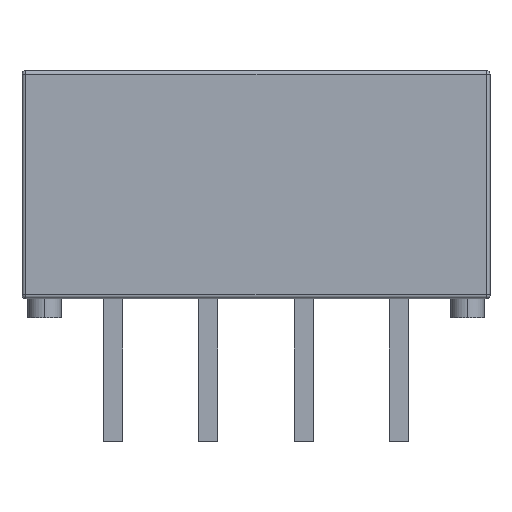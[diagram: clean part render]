
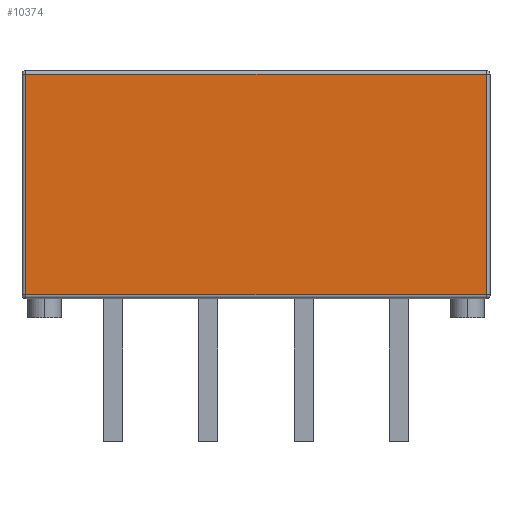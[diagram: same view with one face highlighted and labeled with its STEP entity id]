
A CAD part, top view. The second image highlights one B-rep face of the part: STEP entity #10374.
In plain terms, the highlighted planar face has unit normal (0, 0, 1).
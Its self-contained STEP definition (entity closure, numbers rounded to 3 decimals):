
#4173 = CARTESIAN_POINT ( 'NONE',  ( -6.15, 5.992, 1.85 ) ) ;
#4174 = CARTESIAN_POINT ( 'NONE',  ( -6.15, 0.1, 1.85 ) ) ;
#4318 = CARTESIAN_POINT ( 'NONE',  ( 6.15, 5.992, 1.85 ) ) ;
#4319 = DIRECTION ( 'NONE',  ( -1., 0., 0. ) ) ;
#4320 = VECTOR ( 'NONE', #4319, 1000. ) ;
#4321 = CARTESIAN_POINT ( 'NONE',  ( -6.25, 5.992, 1.85 ) ) ;
#4322 = LINE ( 'NONE', #4321, #4320 ) ;
#4323 = DIRECTION ( 'NONE',  ( 0., -1., 0. ) ) ;
#4324 = VECTOR ( 'NONE', #4323, 1000. ) ;
#4325 = CARTESIAN_POINT ( 'NONE',  ( -6.15, 6.092, 1.85 ) ) ;
#4326 = LINE ( 'NONE', #4325, #4324 ) ;
#4371 = DIRECTION ( 'NONE',  ( -1., 0., 0. ) ) ;
#4372 = DIRECTION ( 'NONE',  ( 0., 0., -1. ) ) ;
#4373 = CARTESIAN_POINT ( 'NONE',  ( 6.25, 6.092, 1.85 ) ) ;
#4374 = AXIS2_PLACEMENT_3D ( 'NONE', #4373, #4372, #4371 ) ;
#4375 = PLANE ( 'NONE',  #4374 ) ;
#4376 = FACE_OUTER_BOUND ( 'NONE', #10377, .T. ) ;
#4514 = CARTESIAN_POINT ( 'NONE',  ( 6.15, 0.1, 1.85 ) ) ;
#4556 = DIRECTION ( 'NONE',  ( 1., 0., 0. ) ) ;
#4557 = VECTOR ( 'NONE', #4556, 1000. ) ;
#4558 = CARTESIAN_POINT ( 'NONE',  ( 6.25, 0.1, 1.85 ) ) ;
#4564 = LINE ( 'NONE', #4558, #4557 ) ;
#4566 = DIRECTION ( 'NONE',  ( 0., 1., 0. ) ) ;
#4567 = VECTOR ( 'NONE', #4566, 1000. ) ;
#4568 = CARTESIAN_POINT ( 'NONE',  ( 6.15, 6.092, 1.85 ) ) ;
#4569 = LINE ( 'NONE', #4568, #4567 ) ;
#10337 = VERTEX_POINT ( 'NONE', #4174 ) ;
#10340 = ORIENTED_EDGE ( 'NONE', *, *, #10366, .T. ) ;
#10341 = VERTEX_POINT ( 'NONE', #4173 ) ;
#10366 = EDGE_CURVE ( 'NONE', #10341, #10337, #4326, .T. ) ;
#10368 = EDGE_CURVE ( 'NONE', #10370, #10341, #4322, .T. ) ;
#10369 = ORIENTED_EDGE ( 'NONE', *, *, #10368, .T. ) ;
#10370 = VERTEX_POINT ( 'NONE', #4318 ) ;
#10374 = ADVANCED_FACE ( 'NONE', ( #4376 ), #4375, .F. ) ;
#10377 = EDGE_LOOP ( 'NONE', ( #10369, #10340, #10431, #10435 ) ) ;
#10430 = VERTEX_POINT ( 'NONE', #4514 ) ;
#10431 = ORIENTED_EDGE ( 'NONE', *, *, #10439, .T. ) ;
#10435 = ORIENTED_EDGE ( 'NONE', *, *, #10436, .T. ) ;
#10436 = EDGE_CURVE ( 'NONE', #10430, #10370, #4569, .T. ) ;
#10439 = EDGE_CURVE ( 'NONE', #10337, #10430, #4564, .T. ) ;
